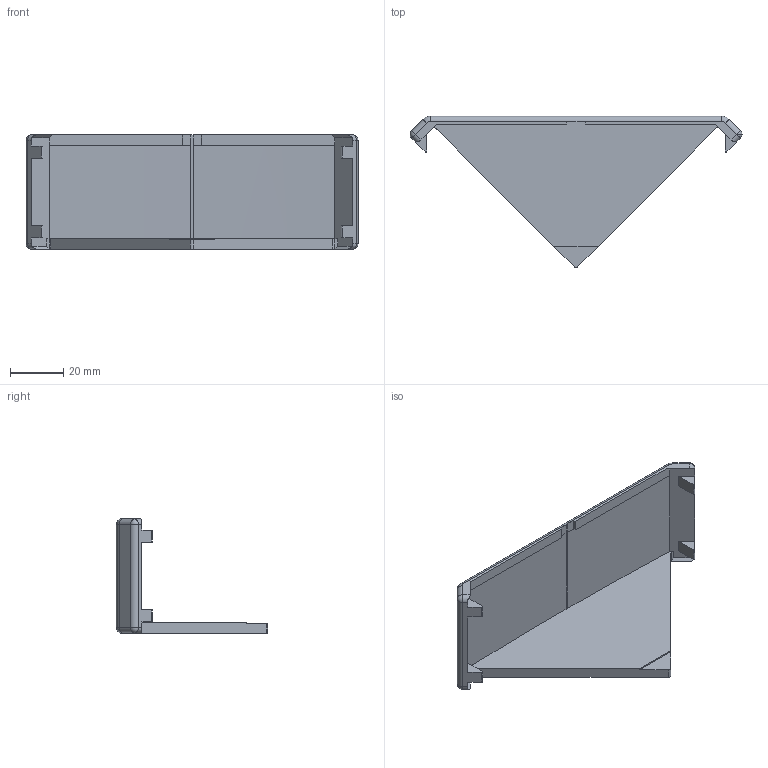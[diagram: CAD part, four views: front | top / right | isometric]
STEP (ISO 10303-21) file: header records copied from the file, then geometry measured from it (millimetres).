
FILE_DESCRIPTION (( 'STEP AP214' ), '1' );
FILE_NAME ('084.206.005-1.STEP', '2021-02-05T09:08:13', ( '' ), ( '' ), 'SwSTEP 2.0', 'SolidWorks 2018', '' );
FILE_SCHEMA (( 'AUTOMOTIVE_DESIGN' ));
Length unit declared in the file: millimetre
Products named in the file (1): 084.206.005-1
Bounding box: 124.89 x 56.91 x 43 mm (x, y, z)
Volume: 26606.9 mm3; surface area: 18488.3 mm2
Topology: 1 solids, 1 shells, 78 faces, 200 edges, 124 vertices
Faces by surface type: plane 44, cylinder 24, sphere 6, torus 4
Entity records: 2368 total; most frequent: CARTESIAN_POINT 421, DIRECTION 406, ORIENTED_EDGE 400, EDGE_CURVE 200, VECTOR 140, LINE 140, AXIS2_PLACEMENT_3D 133, VERTEX_POINT 124
